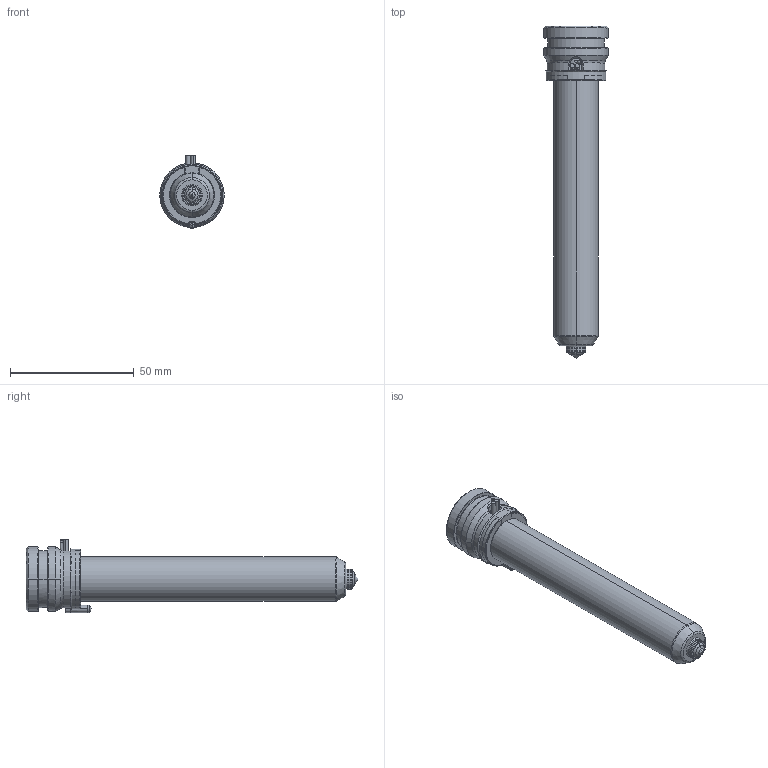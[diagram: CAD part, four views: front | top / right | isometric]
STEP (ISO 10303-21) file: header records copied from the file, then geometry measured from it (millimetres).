
FILE_DESCRIPTION((''),'2;1');
FILE_NAME('TH18116-A-1GLT-PK-JG','2023-12-14T',('umhib'),('Thermoplay S.p.A.'),'PRO/ENGINEER BY PARAMETRIC TECHNOLOGY CORPORATION, 2017170','PRO/ENGINEER BY PARAMETRIC TECHNOLOGY CORPORATION, 2017170','');
FILE_SCHEMA(('CONFIG_CONTROL_DESIGN'));
Length unit declared in the file: millimetre
Products named in the file (1): TH18116-A-1GLT-PK-JG
Bounding box: 26 x 134 x 29.5 mm (x, y, z)
Volume: 27707.4 mm3; surface area: 20380.1 mm2
Topology: 1 solids, 2 shells, 418 faces, 1085 edges, 675 vertices
Faces by surface type: cylinder 162, plane 90, cone 68, torus 62, bspline 24, sphere 10, extrusion 2
Entity records: 18144 total; most frequent: CARTESIAN_POINT 5864, DIRECTION 2187, ORIENTED_EDGE 2146, EDGE_CURVE 1075, AXIS2_PLACEMENT_3D 886, VERTEX_POINT 675, CIRCLE 493, EDGE_LOOP 443
